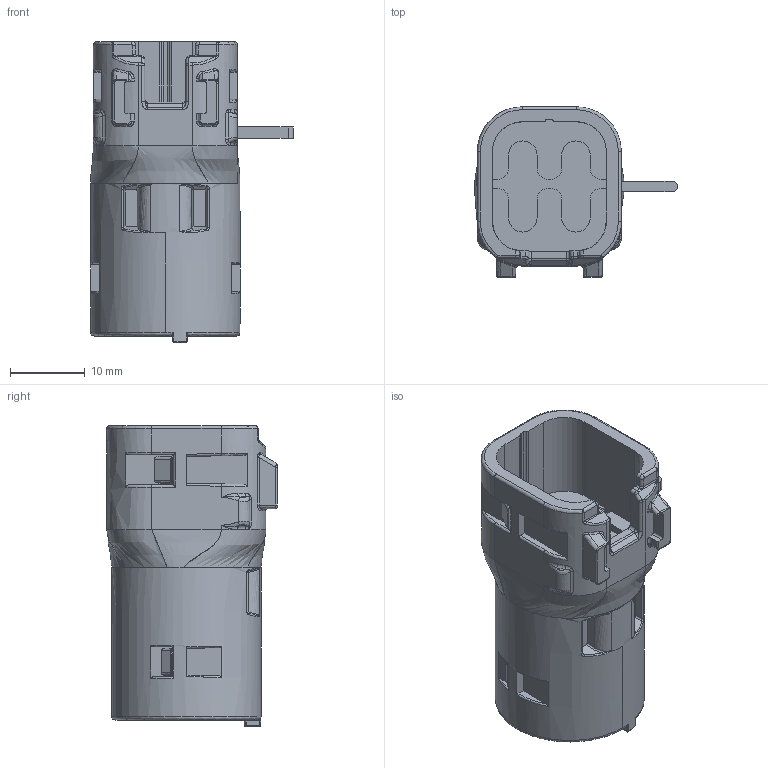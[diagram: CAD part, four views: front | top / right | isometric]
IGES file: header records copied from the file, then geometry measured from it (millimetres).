
Start section:  PTC IGES file: c-1028-011-0605-99-3d.igs
Global section: file name: c-1028-011-0605-99-3d.igs; native system: Creo Parametric by Parametric Technology Corporation; preprocessor: 2013050; author: workeradm; organization: Unknown; units: millimetre
Bounding box: 27.12 x 22.8 x 40.2 mm (x, y, z)
Surface area: 4285 mm2 (no closed solid volume)
Topology: 0 solids, 0 shells, 393 faces, 1956 edges, 1956 vertices
Faces by surface type: bspline 219, revolution 174
